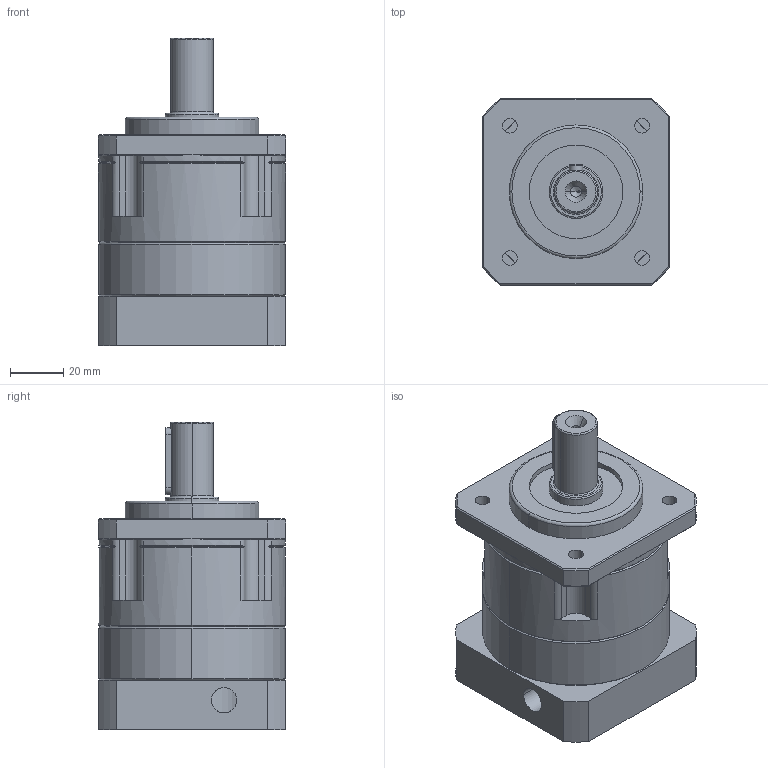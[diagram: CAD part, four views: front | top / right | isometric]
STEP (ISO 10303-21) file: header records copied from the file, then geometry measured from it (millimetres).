
FILE_DESCRIPTION (( 'STEP AP214' ), '1' );
FILE_NAME ('PBF70-L1-14×30-50-70M5 三维零件图.STEP', '2021-08-10T02:04:18', ( 'XJJ' ), ( '' ), 'SwSTEP 2.0', 'SolidWorks 2016', '' );
FILE_SCHEMA (( 'AUTOMOTIVE_DESIGN' ));
Length unit declared in the file: millimetre
Products named in the file (3): hexagon socket head cap screws gb_GB_FASTENER_SCREWS_HSHCS M5X16-N; PBF70-L1-14×30-50-70M5 三维外形图; PBF70-L1-14×30-50-70M5 三维零件图
Assembly tree (2 placements, depth 2):
  PBF70-L1-14×30-50-70M5 三维零件图
    PBF70-L1-14×30-50-70M5 三维外形图
    hexagon socket head cap screws gb_GB_FASTENER_SCREWS_HSHCS M5X16-N
Bounding box: 70 x 70 x 115 mm (x, y, z)
Volume: 309803.8 mm3; surface area: 44007.1 mm2
Topology: 2 solids, 2 shells, 209 faces, 514 edges, 314 vertices
Faces by surface type: cylinder 86, plane 70, cone 40, torus 13
Entity records: 7760 total; most frequent: CARTESIAN_POINT 1560, DIRECTION 1107, ORIENTED_EDGE 1004, EDGE_CURVE 502, AXIS2_PLACEMENT_3D 443, VERTEX_POINT 314, EDGE_LOOP 242, CIRCLE 229
